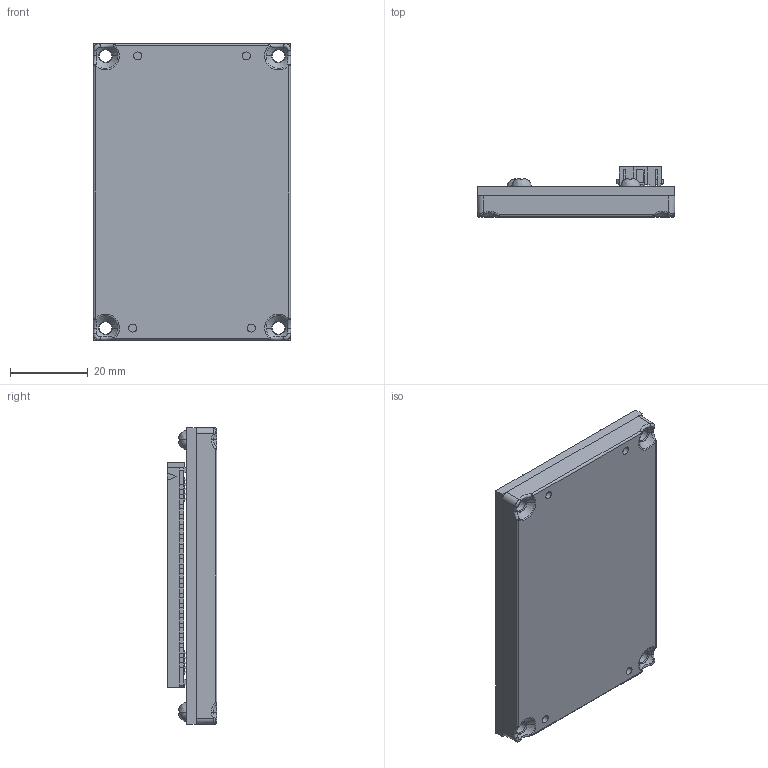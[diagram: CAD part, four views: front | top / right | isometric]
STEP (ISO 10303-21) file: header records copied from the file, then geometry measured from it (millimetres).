
FILE_DESCRIPTION((''),'2;1');
FILE_NAME('CU_SBRIO-9651','2014-11-07T',('jbuhisan'),(''),'PRO/ENGINEER BY PARAMETRIC TECHNOLOGY CORPORATION, 2014000','PRO/ENGINEER BY PARAMETRIC TECHNOLOGY CORPORATION, 2014000','');
FILE_SCHEMA(('CONFIG_CONTROL_DESIGN'));
Products named in the file (1): CU_SBRIO-9651
Bounding box: 50.8 x 12.83 x 76.2 mm (x, y, z)
Volume: 23219.9 mm3; surface area: 20606.7 mm2
Topology: 1 solids, 1 shells, 1838 faces, 4820 edges, 3051 vertices
Faces by surface type: plane 1347, cylinder 241, bspline 165, cone 38, sphere 26, torus 21
Entity records: 68888 total; most frequent: CARTESIAN_POINT 25171, ORIENTED_EDGE 9592, DIRECTION 8013, EDGE_CURVE 4796, VECTOR 3803, LINE 3803, VERTEX_POINT 3127, AXIS2_PLACEMENT_3D 2105
